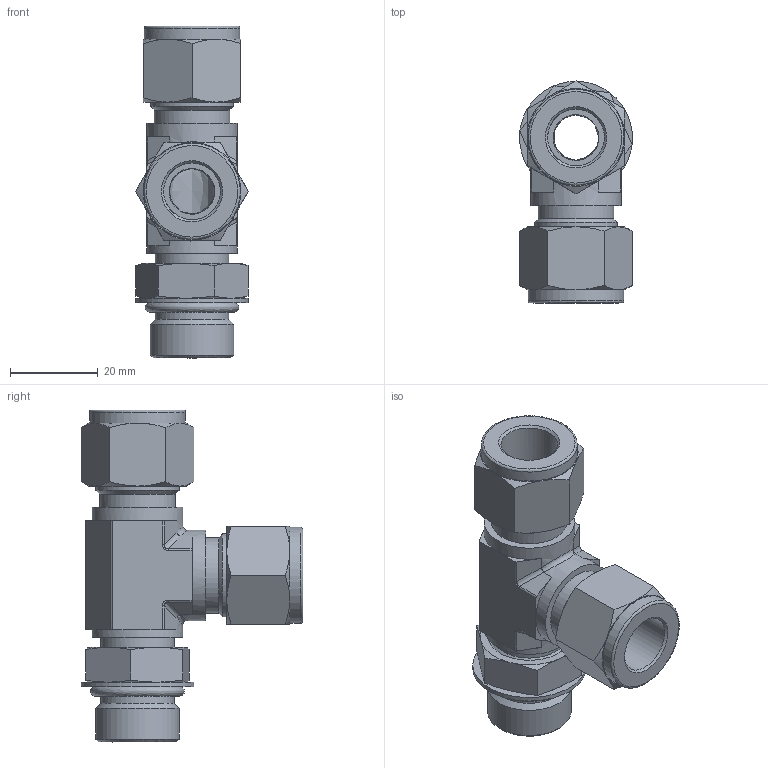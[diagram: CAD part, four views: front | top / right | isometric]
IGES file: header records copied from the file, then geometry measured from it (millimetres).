
Global section: file name: SPMRT-8-8U; native system: Autodesk Inventor 2016; preprocessor: unknown; author: DESIGNPC2; date: 20160315.100938; units: millimetre
Bounding box: 25.7 x 50.44 x 75.5 mm (x, y, z)
Volume: 26466.2 mm3; surface area: 14563.2 mm2
Topology: 4 solids, 4 shells, 169 faces, 412 edges, 262 vertices
Faces by surface type: bspline 169
